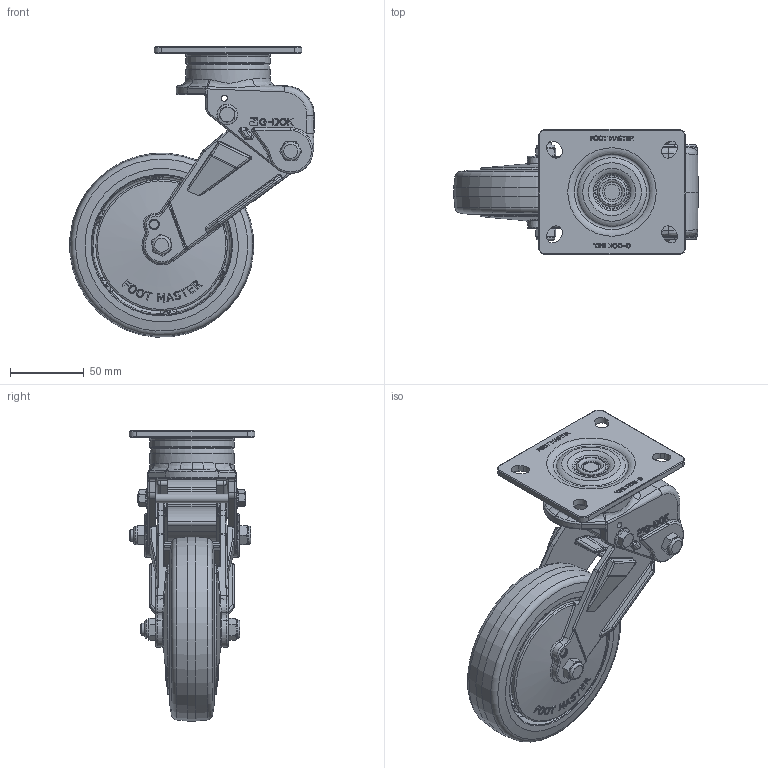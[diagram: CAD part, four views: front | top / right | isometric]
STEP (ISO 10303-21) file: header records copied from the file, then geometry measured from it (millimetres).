
FILE_DESCRIPTION(/* description */ (''),/* implementation_level */ '2;1');
FILE_NAME(/* name */ 'Z:\1.기술연구소\1.도면\제품도면\1.양산품\34.GDSB-SERIES\2.GDSB-125\1.진행도면\3.3D_홈페이지용 내부 간략화\내부 간략화\홈페이지 3D 도면\GDSB-125-ASF(ARF)-LUD-PEU.stp',/* time_stamp */ '2022-08-20T10:14:32+09:00',/* author */ ('admin'),/* organization */ (''),/* preprocessor_version */ 'ST-DEVELOPER v18.1',/* originating_system */ 'Autodesk Inventor 2021',/* authorisation */ '');
FILE_SCHEMA (('AUTOMOTIVE_DESIGN { 1 0 10303 214 3 1 1 }'));
Length unit declared in the file: millimetre
Products named in the file (1): GDSB-125-ASF(ARF)-LUD-PEU
Bounding box: 165.85 x 85 x 196.81 mm (x, y, z)
Volume: 486058.4 mm3; surface area: 153112.9 mm2
Topology: 1 solids, 3 shells, 2725 faces, 6805 edges, 4134 vertices
Faces by surface type: plane 945, bspline 945, cylinder 396, torus 195, cone 192, sphere 52
Full cylindrical faces by diameter (mm): 4.2 x2, 6 x2, 6.2 x2, 7.4 x1, 7.95 x5, 8 x1, 8.2 x2, 9.95 x1, 10.2 x4, 10.7 x1, 11.6 x2, 12.5 x4, 14 x2, 20 x2, 56.01 x2, 57 x1, 125 x1
Entity records: 111257 total; most frequent: CARTESIAN_POINT 48854, ORIENTED_EDGE 13462, DIRECTION 10864, EDGE_CURVE 6731, VERTEX_POINT 4134, AXIS2_PLACEMENT_3D 4076, EDGE_LOOP 2882, FACE_OUTER_BOUND 2725
